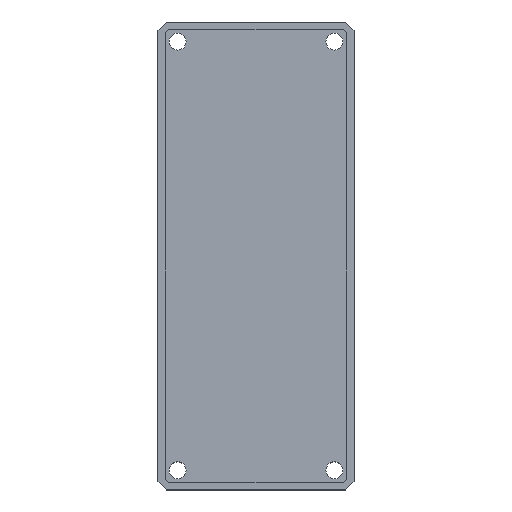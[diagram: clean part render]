
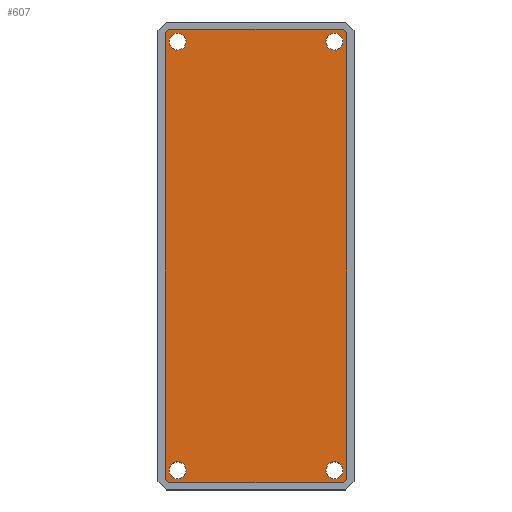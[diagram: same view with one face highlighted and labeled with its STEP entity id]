
A CAD part, top view. The second image highlights one B-rep face of the part: STEP entity #607.
In plain terms, the highlighted planar face has unit normal (0, 0, 1).
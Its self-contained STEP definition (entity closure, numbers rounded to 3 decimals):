
#430 = VERTEX_POINT('',#431);
#431 = CARTESIAN_POINT('',(12.295,-30.345,0.));
#437 = EDGE_CURVE('',#430,#430,#438,.T.);
#438 = CIRCLE('',#439,1.2);
#439 = AXIS2_PLACEMENT_3D('',#440,#441,#442);
#440 = CARTESIAN_POINT('',(11.095,-30.345,0.));
#441 = DIRECTION('',(0.,0.,1.));
#442 = DIRECTION('',(1.,0.,0.));
#537 = VERTEX_POINT('',#538);
#538 = CARTESIAN_POINT('',(-9.895,-30.345,0.));
#544 = EDGE_CURVE('',#537,#537,#545,.T.);
#545 = CIRCLE('',#546,1.2);
#546 = AXIS2_PLACEMENT_3D('',#547,#548,#549);
#547 = CARTESIAN_POINT('',(-11.095,-30.345,0.));
#548 = DIRECTION('',(0.,0.,1.));
#549 = DIRECTION('',(1.,0.,0.));
#562 = VERTEX_POINT('',#563);
#563 = CARTESIAN_POINT('',(12.295,30.345,
    0.));
#569 = EDGE_CURVE('',#562,#562,#570,.T.);
#570 = CIRCLE('',#571,1.2);
#571 = AXIS2_PLACEMENT_3D('',#572,#573,#574);
#572 = CARTESIAN_POINT('',(11.095,30.345,
    0.));
#573 = DIRECTION('',(0.,0.,-1.));
#574 = DIRECTION('',(1.,0.,0.));
#587 = VERTEX_POINT('',#588);
#588 = CARTESIAN_POINT('',(-9.895,30.345,
    0.));
#594 = EDGE_CURVE('',#587,#587,#595,.T.);
#595 = CIRCLE('',#596,1.2);
#596 = AXIS2_PLACEMENT_3D('',#597,#598,#599);
#597 = CARTESIAN_POINT('',(-11.095,30.345,
    0.));
#598 = DIRECTION('',(0.,0.,-1.));
#599 = DIRECTION('',(1.,0.,0.));
#607 = ADVANCED_FACE('',(#608,#674,#677,#680,#683),#686,.T.);
#608 = FACE_BOUND('',#609,.T.);
#609 = EDGE_LOOP('',(#610,#620,#628,#636,#644,#652,#660,#668));
#610 = ORIENTED_EDGE('',*,*,#611,.T.);
#611 = EDGE_CURVE('',#612,#614,#616,.T.);
#612 = VERTEX_POINT('',#613);
#613 = CARTESIAN_POINT('',(-12.359,32.125,0.));
#614 = VERTEX_POINT('',#615);
#615 = CARTESIAN_POINT('',(-12.875,31.609,0.));
#616 = LINE('',#617,#618);
#617 = CARTESIAN_POINT('',(-12.359,32.125,0.));
#618 = VECTOR('',#619,1.);
#619 = DIRECTION('',(-0.707,-0.707,0.));
#620 = ORIENTED_EDGE('',*,*,#621,.T.);
#621 = EDGE_CURVE('',#614,#622,#624,.T.);
#622 = VERTEX_POINT('',#623);
#623 = CARTESIAN_POINT('',(-12.875,-31.609,0.));
#624 = LINE('',#625,#626);
#625 = CARTESIAN_POINT('',(-12.875,31.609,0.));
#626 = VECTOR('',#627,1.);
#627 = DIRECTION('',(0.,-1.,0.));
#628 = ORIENTED_EDGE('',*,*,#629,.T.);
#629 = EDGE_CURVE('',#622,#630,#632,.T.);
#630 = VERTEX_POINT('',#631);
#631 = CARTESIAN_POINT('',(-12.359,-32.125,0.));
#632 = LINE('',#633,#634);
#633 = CARTESIAN_POINT('',(-12.875,-31.609,0.));
#634 = VECTOR('',#635,1.);
#635 = DIRECTION('',(0.707,-0.707,0.));
#636 = ORIENTED_EDGE('',*,*,#637,.T.);
#637 = EDGE_CURVE('',#630,#638,#640,.T.);
#638 = VERTEX_POINT('',#639);
#639 = CARTESIAN_POINT('',(12.359,-32.125,0.));
#640 = LINE('',#641,#642);
#641 = CARTESIAN_POINT('',(-12.359,-32.125,0.));
#642 = VECTOR('',#643,1.);
#643 = DIRECTION('',(1.,0.,0.));
#644 = ORIENTED_EDGE('',*,*,#645,.T.);
#645 = EDGE_CURVE('',#638,#646,#648,.T.);
#646 = VERTEX_POINT('',#647);
#647 = CARTESIAN_POINT('',(12.875,-31.609,0.));
#648 = LINE('',#649,#650);
#649 = CARTESIAN_POINT('',(12.359,-32.125,0.));
#650 = VECTOR('',#651,1.);
#651 = DIRECTION('',(0.707,0.707,0.));
#652 = ORIENTED_EDGE('',*,*,#653,.T.);
#653 = EDGE_CURVE('',#646,#654,#656,.T.);
#654 = VERTEX_POINT('',#655);
#655 = CARTESIAN_POINT('',(12.875,31.609,0.));
#656 = LINE('',#657,#658);
#657 = CARTESIAN_POINT('',(12.875,-31.609,0.));
#658 = VECTOR('',#659,1.);
#659 = DIRECTION('',(0.,1.,0.));
#660 = ORIENTED_EDGE('',*,*,#661,.T.);
#661 = EDGE_CURVE('',#654,#662,#664,.T.);
#662 = VERTEX_POINT('',#663);
#663 = CARTESIAN_POINT('',(12.359,32.125,0.));
#664 = LINE('',#665,#666);
#665 = CARTESIAN_POINT('',(12.875,31.609,0.));
#666 = VECTOR('',#667,1.);
#667 = DIRECTION('',(-0.707,0.707,0.));
#668 = ORIENTED_EDGE('',*,*,#669,.T.);
#669 = EDGE_CURVE('',#662,#612,#670,.T.);
#670 = LINE('',#671,#672);
#671 = CARTESIAN_POINT('',(12.359,32.125,0.));
#672 = VECTOR('',#673,1.);
#673 = DIRECTION('',(-1.,0.,0.));
#674 = FACE_BOUND('',#675,.T.);
#675 = EDGE_LOOP('',(#676));
#676 = ORIENTED_EDGE('',*,*,#544,.F.);
#677 = FACE_BOUND('',#678,.T.);
#678 = EDGE_LOOP('',(#679));
#679 = ORIENTED_EDGE('',*,*,#437,.F.);
#680 = FACE_BOUND('',#681,.T.);
#681 = EDGE_LOOP('',(#682));
#682 = ORIENTED_EDGE('',*,*,#594,.T.);
#683 = FACE_BOUND('',#684,.T.);
#684 = EDGE_LOOP('',(#685));
#685 = ORIENTED_EDGE('',*,*,#569,.T.);
#686 = PLANE('',#687);
#687 = AXIS2_PLACEMENT_3D('',#688,#689,#690);
#688 = CARTESIAN_POINT('',(0.,0.,0.));
#689 = DIRECTION('',(0.,0.,1.));
#690 = DIRECTION('',(1.,0.,0.));
